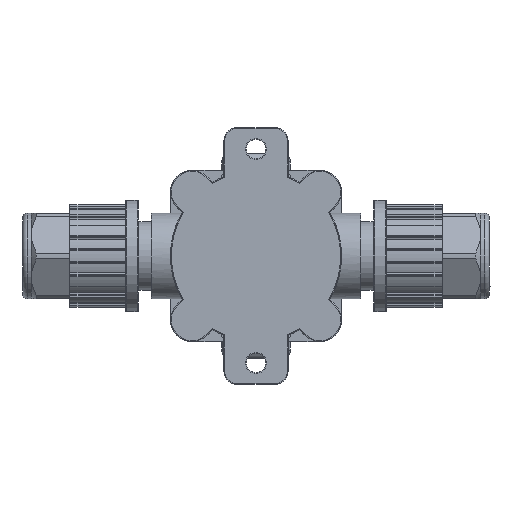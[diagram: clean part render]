
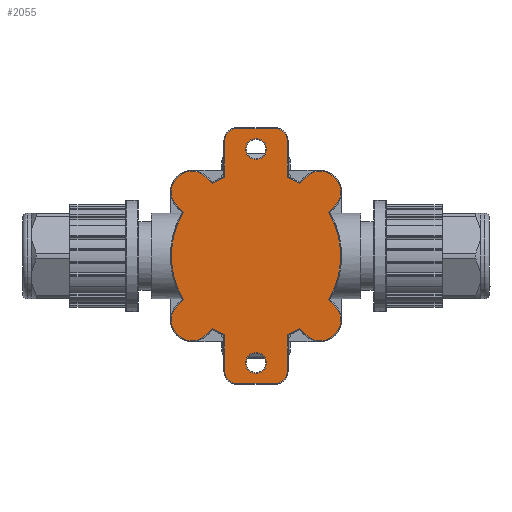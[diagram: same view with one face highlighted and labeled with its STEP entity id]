
A CAD part, front view. The second image highlights one B-rep face of the part: STEP entity #2055.
In plain terms, the highlighted planar face has unit normal (0, -1, 0).
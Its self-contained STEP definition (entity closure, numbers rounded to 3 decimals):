
#1525=CIRCLE('',#14542,4.8);
#1526=CIRCLE('',#14543,19.8);
#1527=CIRCLE('',#14544,2.8);
#1528=CIRCLE('',#14545,2.8);
#1529=CIRCLE('',#14546,19.8);
#1530=CIRCLE('',#14547,4.8);
#1531=CIRCLE('',#14548,19.8);
#1532=CIRCLE('',#14549,4.8);
#1533=CIRCLE('',#14550,19.8);
#1534=CIRCLE('',#14551,2.8);
#1535=CIRCLE('',#14552,2.8);
#1536=CIRCLE('',#14553,19.8);
#1537=CIRCLE('',#14554,4.8);
#1538=CIRCLE('',#14555,19.8);
#1539=CIRCLE('',#14556,2.45);
#1540=CIRCLE('',#14557,2.45);
#2055=ADVANCED_FACE('',(#3496,#3497,#3498),#2758,.F.);
#2758=PLANE('',#14558);
#3496=FACE_BOUND('',#3923,.T.);
#3497=FACE_BOUND('',#3924,.T.);
#3498=FACE_BOUND('',#3925,.T.);
#3923=EDGE_LOOP('',(#5561,#5562,#5563,#5564,#5565,#5566,#5567,#5568,#5569,
#5570,#5571,#5572,#5573,#5574,#5575,#5576,#5577,#5578,#5579,#5580,#5581,
#5582,#5583,#5584,#5585,#5586,#5587,#5588));
#3924=EDGE_LOOP('',(#5589));
#3925=EDGE_LOOP('',(#5590));
#5561=ORIENTED_EDGE('',*,*,#10453,.T.);
#5562=ORIENTED_EDGE('',*,*,#10454,.T.);
#5563=ORIENTED_EDGE('',*,*,#10455,.T.);
#5564=ORIENTED_EDGE('',*,*,#10456,.T.);
#5565=ORIENTED_EDGE('',*,*,#10457,.T.);
#5566=ORIENTED_EDGE('',*,*,#10458,.T.);
#5567=ORIENTED_EDGE('',*,*,#10459,.T.);
#5568=ORIENTED_EDGE('',*,*,#10460,.T.);
#5569=ORIENTED_EDGE('',*,*,#10461,.T.);
#5570=ORIENTED_EDGE('',*,*,#10462,.T.);
#5571=ORIENTED_EDGE('',*,*,#10463,.T.);
#5572=ORIENTED_EDGE('',*,*,#10464,.T.);
#5573=ORIENTED_EDGE('',*,*,#10465,.T.);
#5574=ORIENTED_EDGE('',*,*,#10466,.T.);
#5575=ORIENTED_EDGE('',*,*,#10467,.T.);
#5576=ORIENTED_EDGE('',*,*,#10468,.T.);
#5577=ORIENTED_EDGE('',*,*,#10469,.T.);
#5578=ORIENTED_EDGE('',*,*,#10470,.T.);
#5579=ORIENTED_EDGE('',*,*,#10471,.T.);
#5580=ORIENTED_EDGE('',*,*,#10472,.T.);
#5581=ORIENTED_EDGE('',*,*,#10473,.T.);
#5582=ORIENTED_EDGE('',*,*,#10474,.T.);
#5583=ORIENTED_EDGE('',*,*,#10475,.T.);
#5584=ORIENTED_EDGE('',*,*,#10476,.T.);
#5585=ORIENTED_EDGE('',*,*,#10477,.T.);
#5586=ORIENTED_EDGE('',*,*,#10478,.T.);
#5587=ORIENTED_EDGE('',*,*,#10479,.T.);
#5588=ORIENTED_EDGE('',*,*,#10480,.T.);
#5589=ORIENTED_EDGE('',*,*,#10481,.T.);
#5590=ORIENTED_EDGE('',*,*,#10482,.T.);
#8968=VERTEX_POINT('',#21026);
#8969=VERTEX_POINT('',#21027);
#8970=VERTEX_POINT('',#21029);
#8971=VERTEX_POINT('',#21031);
#8972=VERTEX_POINT('',#21033);
#8973=VERTEX_POINT('',#21035);
#8974=VERTEX_POINT('',#21037);
#8975=VERTEX_POINT('',#21039);
#8976=VERTEX_POINT('',#21041);
#8977=VERTEX_POINT('',#21043);
#8978=VERTEX_POINT('',#21045);
#8979=VERTEX_POINT('',#21047);
#8980=VERTEX_POINT('',#21049);
#8981=VERTEX_POINT('',#21051);
#8982=VERTEX_POINT('',#21053);
#8983=VERTEX_POINT('',#21055);
#8984=VERTEX_POINT('',#21057);
#8985=VERTEX_POINT('',#21059);
#8986=VERTEX_POINT('',#21061);
#8987=VERTEX_POINT('',#21063);
#8988=VERTEX_POINT('',#21065);
#8989=VERTEX_POINT('',#21067);
#8990=VERTEX_POINT('',#21069);
#8991=VERTEX_POINT('',#21071);
#8992=VERTEX_POINT('',#21073);
#8993=VERTEX_POINT('',#21075);
#8994=VERTEX_POINT('',#21077);
#8995=VERTEX_POINT('',#21079);
#8996=VERTEX_POINT('',#21082);
#8997=VERTEX_POINT('',#21084);
#10453=EDGE_CURVE('',#8968,#8969,#1525,.T.);
#10454=EDGE_CURVE('',#8969,#8970,#12239,.T.);
#10455=EDGE_CURVE('',#8970,#8971,#1526,.T.);
#10456=EDGE_CURVE('',#8971,#8972,#12240,.T.);
#10457=EDGE_CURVE('',#8972,#8973,#1527,.T.);
#10458=EDGE_CURVE('',#8973,#8974,#12241,.T.);
#10459=EDGE_CURVE('',#8974,#8975,#1528,.T.);
#10460=EDGE_CURVE('',#8975,#8976,#12242,.T.);
#10461=EDGE_CURVE('',#8976,#8977,#1529,.T.);
#10462=EDGE_CURVE('',#8977,#8978,#12243,.T.);
#10463=EDGE_CURVE('',#8978,#8979,#1530,.T.);
#10464=EDGE_CURVE('',#8979,#8980,#12244,.T.);
#10465=EDGE_CURVE('',#8980,#8981,#1531,.T.);
#10466=EDGE_CURVE('',#8981,#8982,#12245,.T.);
#10467=EDGE_CURVE('',#8982,#8983,#1532,.T.);
#10468=EDGE_CURVE('',#8983,#8984,#12246,.T.);
#10469=EDGE_CURVE('',#8984,#8985,#1533,.T.);
#10470=EDGE_CURVE('',#8985,#8986,#12247,.T.);
#10471=EDGE_CURVE('',#8986,#8987,#1534,.T.);
#10472=EDGE_CURVE('',#8987,#8988,#12248,.T.);
#10473=EDGE_CURVE('',#8988,#8989,#1535,.T.);
#10474=EDGE_CURVE('',#8989,#8990,#12249,.T.);
#10475=EDGE_CURVE('',#8990,#8991,#1536,.T.);
#10476=EDGE_CURVE('',#8991,#8992,#12250,.T.);
#10477=EDGE_CURVE('',#8992,#8993,#1537,.T.);
#10478=EDGE_CURVE('',#8993,#8994,#12251,.T.);
#10479=EDGE_CURVE('',#8994,#8995,#1538,.T.);
#10480=EDGE_CURVE('',#8995,#8968,#12252,.T.);
#10481=EDGE_CURVE('',#8996,#8996,#1539,.T.);
#10482=EDGE_CURVE('',#8997,#8997,#1540,.T.);
#12239=LINE('',#21028,#13357);
#12240=LINE('',#21032,#13358);
#12241=LINE('',#21036,#13359);
#12242=LINE('',#21040,#13360);
#12243=LINE('',#21044,#13361);
#12244=LINE('',#21048,#13362);
#12245=LINE('',#21052,#13363);
#12246=LINE('',#21056,#13364);
#12247=LINE('',#21060,#13365);
#12248=LINE('',#21064,#13366);
#12249=LINE('',#21068,#13367);
#12250=LINE('',#21072,#13368);
#12251=LINE('',#21076,#13369);
#12252=LINE('',#21080,#13370);
#13357=VECTOR('',#16287,1.);
#13358=VECTOR('',#16290,1.);
#13359=VECTOR('',#16293,1.);
#13360=VECTOR('',#16296,1.);
#13361=VECTOR('',#16299,1.);
#13362=VECTOR('',#16302,1.);
#13363=VECTOR('',#16305,1.);
#13364=VECTOR('',#16308,1.);
#13365=VECTOR('',#16311,1.);
#13366=VECTOR('',#16314,1.);
#13367=VECTOR('',#16317,1.);
#13368=VECTOR('',#16320,1.);
#13369=VECTOR('',#16323,1.);
#13370=VECTOR('',#16326,1.);
#14542=AXIS2_PLACEMENT_3D('',#21025,#16285,#16286);
#14543=AXIS2_PLACEMENT_3D('',#21030,#16288,#16289);
#14544=AXIS2_PLACEMENT_3D('',#21034,#16291,#16292);
#14545=AXIS2_PLACEMENT_3D('',#21038,#16294,#16295);
#14546=AXIS2_PLACEMENT_3D('',#21042,#16297,#16298);
#14547=AXIS2_PLACEMENT_3D('',#21046,#16300,#16301);
#14548=AXIS2_PLACEMENT_3D('',#21050,#16303,#16304);
#14549=AXIS2_PLACEMENT_3D('',#21054,#16306,#16307);
#14550=AXIS2_PLACEMENT_3D('',#21058,#16309,#16310);
#14551=AXIS2_PLACEMENT_3D('',#21062,#16312,#16313);
#14552=AXIS2_PLACEMENT_3D('',#21066,#16315,#16316);
#14553=AXIS2_PLACEMENT_3D('',#21070,#16318,#16319);
#14554=AXIS2_PLACEMENT_3D('',#21074,#16321,#16322);
#14555=AXIS2_PLACEMENT_3D('',#21078,#16324,#16325);
#14556=AXIS2_PLACEMENT_3D('',#21081,#16327,#16328);
#14557=AXIS2_PLACEMENT_3D('',#21083,#16329,#16330);
#14558=AXIS2_PLACEMENT_3D('',#21085,#16331,#16332);
#16285=DIRECTION('',(0.,-1.,0.));
#16286=DIRECTION('',(0.,0.,1.));
#16287=DIRECTION('',(-0.707,0.,-0.707));
#16288=DIRECTION('',(0.,-1.,0.));
#16289=DIRECTION('',(0.,0.,1.));
#16290=DIRECTION('',(0.,0.,1.));
#16291=DIRECTION('',(0.,-1.,0.));
#16292=DIRECTION('',(0.,0.,1.));
#16293=DIRECTION('',(-1.,0.,0.));
#16294=DIRECTION('',(0.,-1.,0.));
#16295=DIRECTION('',(0.,0.,1.));
#16296=DIRECTION('',(0.,0.,-1.));
#16297=DIRECTION('',(0.,-1.,0.));
#16298=DIRECTION('',(0.,0.,1.));
#16299=DIRECTION('',(-0.707,0.,0.707));
#16300=DIRECTION('',(0.,-1.,0.));
#16301=DIRECTION('',(0.,0.,1.));
#16302=DIRECTION('',(0.707,0.,-0.707));
#16303=DIRECTION('',(0.,-1.,0.));
#16304=DIRECTION('',(0.,0.,1.));
#16305=DIRECTION('',(-0.707,0.,-0.707));
#16306=DIRECTION('',(0.,-1.,0.));
#16307=DIRECTION('',(0.,0.,1.));
#16308=DIRECTION('',(0.707,0.,0.707));
#16309=DIRECTION('',(0.,-1.,0.));
#16310=DIRECTION('',(0.,0.,1.));
#16311=DIRECTION('',(0.,0.,-1.));
#16312=DIRECTION('',(0.,-1.,0.));
#16313=DIRECTION('',(0.,0.,1.));
#16314=DIRECTION('',(1.,0.,0.));
#16315=DIRECTION('',(0.,-1.,0.));
#16316=DIRECTION('',(0.,0.,1.));
#16317=DIRECTION('',(0.,0.,1.));
#16318=DIRECTION('',(0.,-1.,0.));
#16319=DIRECTION('',(0.,0.,1.));
#16320=DIRECTION('',(0.707,0.,-0.707));
#16321=DIRECTION('',(0.,-1.,0.));
#16322=DIRECTION('',(0.,0.,1.));
#16323=DIRECTION('',(-0.707,0.,0.707));
#16324=DIRECTION('',(0.,-1.,0.));
#16325=DIRECTION('',(0.,0.,1.));
#16326=DIRECTION('',(0.707,0.,0.707));
#16327=DIRECTION('',(0.,1.,0.));
#16328=DIRECTION('',(0.,0.,1.));
#16329=DIRECTION('',(0.,1.,0.));
#16330=DIRECTION('',(0.,0.,1.));
#16331=DIRECTION('',(0.,1.,0.));
#16332=DIRECTION('',(0.,0.,-1.));
#21025=CARTESIAN_POINT('',(15.,0.,15.));
#21026=CARTESIAN_POINT('',(18.394,0.,11.606));
#21027=CARTESIAN_POINT('',(11.606,0.,18.394));
#21028=CARTESIAN_POINT('',(10.189,0.,16.977));
#21029=CARTESIAN_POINT('',(10.189,0.,16.977));
#21030=CARTESIAN_POINT('',(0.,0.,0.));
#21031=CARTESIAN_POINT('',(7.3,0.,18.405));
#21032=CARTESIAN_POINT('',(7.3,0.,27.));
#21033=CARTESIAN_POINT('',(7.3,0.,27.));
#21034=CARTESIAN_POINT('',(4.5,0.,27.));
#21035=CARTESIAN_POINT('',(4.5,0.,29.8));
#21036=CARTESIAN_POINT('',(-4.5,0.,29.8));
#21037=CARTESIAN_POINT('',(-4.5,0.,29.8));
#21038=CARTESIAN_POINT('',(-4.5,0.,27.));
#21039=CARTESIAN_POINT('',(-7.3,0.,27.));
#21040=CARTESIAN_POINT('',(-7.3,0.,18.405));
#21041=CARTESIAN_POINT('',(-7.3,0.,18.405));
#21042=CARTESIAN_POINT('',(0.,0.,0.));
#21043=CARTESIAN_POINT('',(-10.189,0.,16.977));
#21044=CARTESIAN_POINT('',(-11.606,0.,18.394));
#21045=CARTESIAN_POINT('',(-11.606,0.,18.394));
#21046=CARTESIAN_POINT('',(-15.,0.,15.));
#21047=CARTESIAN_POINT('',(-18.394,0.,11.606));
#21048=CARTESIAN_POINT('',(-16.977,0.,10.189));
#21049=CARTESIAN_POINT('',(-16.977,0.,10.189));
#21050=CARTESIAN_POINT('',(0.,0.,0.));
#21051=CARTESIAN_POINT('',(-16.977,0.,-10.189));
#21052=CARTESIAN_POINT('',(-18.394,0.,-11.606));
#21053=CARTESIAN_POINT('',(-18.394,0.,-11.606));
#21054=CARTESIAN_POINT('',(-15.,0.,-15.));
#21055=CARTESIAN_POINT('',(-11.606,0.,-18.394));
#21056=CARTESIAN_POINT('',(-10.189,0.,-16.977));
#21057=CARTESIAN_POINT('',(-10.189,0.,-16.977));
#21058=CARTESIAN_POINT('',(0.,0.,0.));
#21059=CARTESIAN_POINT('',(-7.3,0.,-18.405));
#21060=CARTESIAN_POINT('',(-7.3,0.,-27.));
#21061=CARTESIAN_POINT('',(-7.3,0.,-27.));
#21062=CARTESIAN_POINT('',(-4.5,0.,-27.));
#21063=CARTESIAN_POINT('',(-4.5,0.,-29.8));
#21064=CARTESIAN_POINT('',(4.5,0.,-29.8));
#21065=CARTESIAN_POINT('',(4.5,0.,-29.8));
#21066=CARTESIAN_POINT('',(4.5,0.,-27.));
#21067=CARTESIAN_POINT('',(7.3,0.,-27.));
#21068=CARTESIAN_POINT('',(7.3,0.,-18.405));
#21069=CARTESIAN_POINT('',(7.3,0.,-18.405));
#21070=CARTESIAN_POINT('',(0.,0.,0.));
#21071=CARTESIAN_POINT('',(10.189,0.,-16.977));
#21072=CARTESIAN_POINT('',(11.606,0.,-18.394));
#21073=CARTESIAN_POINT('',(11.606,0.,-18.394));
#21074=CARTESIAN_POINT('',(15.,0.,-15.));
#21075=CARTESIAN_POINT('',(18.394,0.,-11.606));
#21076=CARTESIAN_POINT('',(16.977,0.,-10.189));
#21077=CARTESIAN_POINT('',(16.977,0.,-10.189));
#21078=CARTESIAN_POINT('',(0.,0.,0.));
#21079=CARTESIAN_POINT('',(16.977,0.,10.189));
#21080=CARTESIAN_POINT('',(18.394,0.,11.606));
#21081=CARTESIAN_POINT('',(0.,0.,25.));
#21082=CARTESIAN_POINT('',(0.,0.,27.45));
#21083=CARTESIAN_POINT('',(0.,0.,-25.));
#21084=CARTESIAN_POINT('',(0.,0.,-22.55));
#21085=CARTESIAN_POINT('',(0.,0.,0.));
